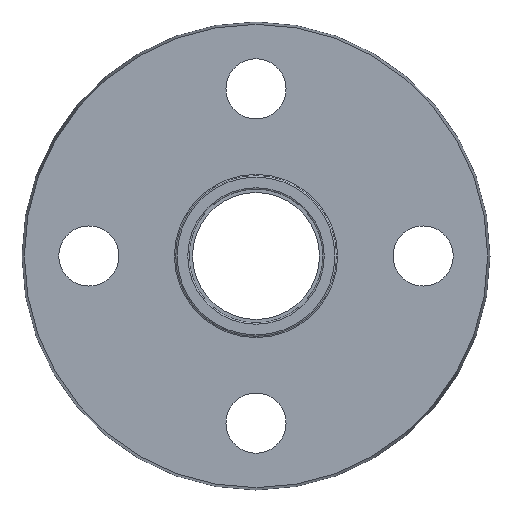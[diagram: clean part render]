
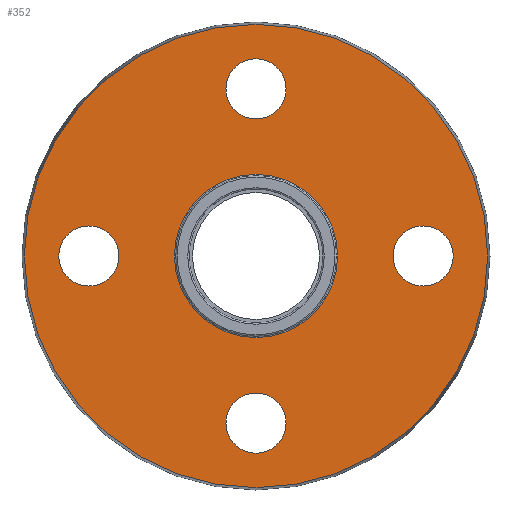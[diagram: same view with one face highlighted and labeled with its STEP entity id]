
A CAD part, left-side view. The second image highlights one B-rep face of the part: STEP entity #352.
In plain terms, the highlighted planar face has unit normal (-1, 0, 0).
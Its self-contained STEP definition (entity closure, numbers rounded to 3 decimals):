
#28=PLANE('',#409);
#55=FACE_BOUND('',#141,.T.);
#56=FACE_BOUND('',#142,.T.);
#57=FACE_BOUND('',#143,.T.);
#58=FACE_BOUND('',#144,.T.);
#59=FACE_BOUND('',#145,.T.);
#87=FACE_OUTER_BOUND('',#140,.T.);
#140=EDGE_LOOP('',(#300));
#141=EDGE_LOOP('',(#301));
#142=EDGE_LOOP('',(#302));
#143=EDGE_LOOP('',(#303));
#144=EDGE_LOOP('',(#304));
#145=EDGE_LOOP('',(#305));
#184=CIRCLE('',#408,24.4);
#185=CIRCLE('',#410,69.3);
#186=CIRCLE('',#411,9.);
#187=CIRCLE('',#412,9.);
#188=CIRCLE('',#413,9.);
#189=CIRCLE('',#414,9.);
#216=VERTEX_POINT('',#617);
#217=VERTEX_POINT('',#620);
#218=VERTEX_POINT('',#622);
#219=VERTEX_POINT('',#624);
#220=VERTEX_POINT('',#626);
#221=VERTEX_POINT('',#628);
#248=EDGE_CURVE('',#216,#216,#184,.T.);
#249=EDGE_CURVE('',#217,#217,#185,.T.);
#250=EDGE_CURVE('',#218,#218,#186,.T.);
#251=EDGE_CURVE('',#219,#219,#187,.T.);
#252=EDGE_CURVE('',#220,#220,#188,.T.);
#253=EDGE_CURVE('',#221,#221,#189,.T.);
#300=ORIENTED_EDGE('',*,*,#249,.T.);
#301=ORIENTED_EDGE('',*,*,#250,.T.);
#302=ORIENTED_EDGE('',*,*,#251,.T.);
#303=ORIENTED_EDGE('',*,*,#252,.T.);
#304=ORIENTED_EDGE('',*,*,#253,.T.);
#305=ORIENTED_EDGE('',*,*,#248,.F.);
#352=ADVANCED_FACE('',(#87,#55,#56,#57,#58,#59),#28,.T.);
#408=AXIS2_PLACEMENT_3D('',#618,#517,#518);
#409=AXIS2_PLACEMENT_3D('',#619,#519,#520);
#410=AXIS2_PLACEMENT_3D('',#621,#521,#522);
#411=AXIS2_PLACEMENT_3D('',#623,#523,#524);
#412=AXIS2_PLACEMENT_3D('',#625,#525,#526);
#413=AXIS2_PLACEMENT_3D('',#627,#527,#528);
#414=AXIS2_PLACEMENT_3D('',#629,#529,#530);
#517=DIRECTION('center_axis',(-1.,0.,0.));
#518=DIRECTION('ref_axis',(0.,1.,0.));
#519=DIRECTION('center_axis',(-1.,0.,0.));
#520=DIRECTION('ref_axis',(0.,0.,1.));
#521=DIRECTION('center_axis',(-1.,0.,0.));
#522=DIRECTION('ref_axis',(0.,0.,1.));
#523=DIRECTION('center_axis',(1.,0.,0.));
#524=DIRECTION('ref_axis',(0.,0.,1.));
#525=DIRECTION('center_axis',(1.,0.,0.));
#526=DIRECTION('ref_axis',(0.,1.,0.));
#527=DIRECTION('center_axis',(1.,0.,0.));
#528=DIRECTION('ref_axis',(0.,0.,-1.));
#529=DIRECTION('center_axis',(1.,0.,0.));
#530=DIRECTION('ref_axis',(0.,-1.,0.));
#617=CARTESIAN_POINT('',(-2.5,-24.4,0.));
#618=CARTESIAN_POINT('Origin',(-2.5,0.,0.));
#619=CARTESIAN_POINT('Origin',(-2.5,-24.,0.));
#620=CARTESIAN_POINT('',(-2.5,-69.3,0.));
#621=CARTESIAN_POINT('Origin',(-2.5,0.,0.));
#622=CARTESIAN_POINT('',(-2.5,50.,-9.));
#623=CARTESIAN_POINT('Origin',(-2.5,50.,0.));
#624=CARTESIAN_POINT('',(-2.5,-9.,-50.));
#625=CARTESIAN_POINT('Origin',(-2.5,0.,-50.));
#626=CARTESIAN_POINT('',(-2.5,-50.,9.));
#627=CARTESIAN_POINT('Origin',(-2.5,-50.,0.));
#628=CARTESIAN_POINT('',(-2.5,9.,50.));
#629=CARTESIAN_POINT('Origin',(-2.5,0.,50.));
